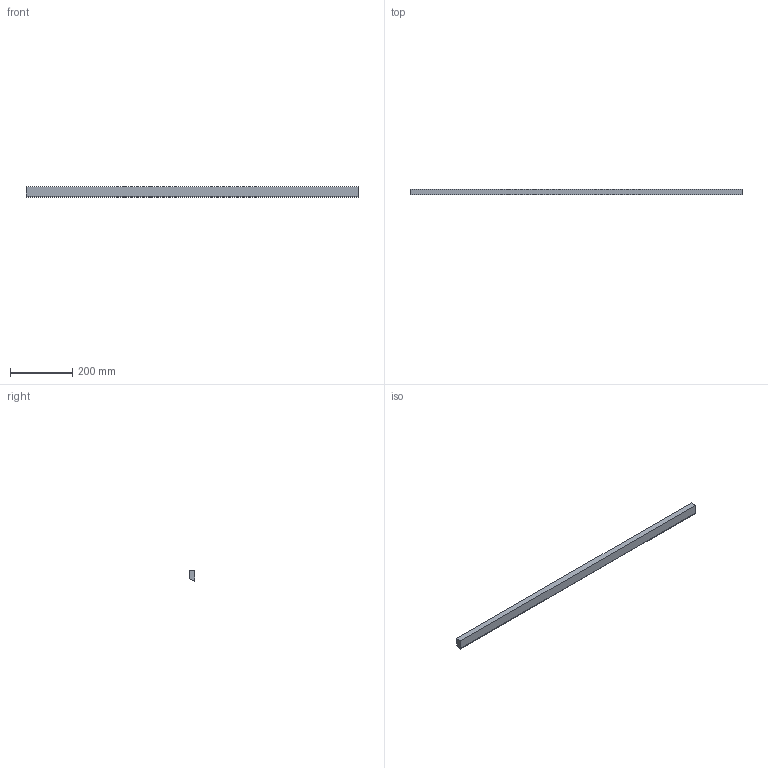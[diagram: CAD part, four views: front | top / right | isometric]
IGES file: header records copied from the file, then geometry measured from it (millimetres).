
Start section:  PTC IGES file: C:\Documents and Settings\Brad\Desktop\LABsub_CAD\mouth_ flair_bottom.igs
Global section: file name: C:\Documents and Settings\Brad\Desktop\LABsub_CAD\mouth_flair_bottom.igs; native system: Brad by Parametric Technology Corporation; preprocessor: 2003250; author: Unknown; organization: PTC; date: 040522.160822; units: inch
Bounding box: 1066.8 x 19.05 x 33.11 mm (x, y, z)
Volume: 601789.2 mm3; surface area: 104953.3 mm2
Topology: 1 solids, 1 shells, 7 faces, 15 edges, 10 vertices
Faces by surface type: bspline 7
